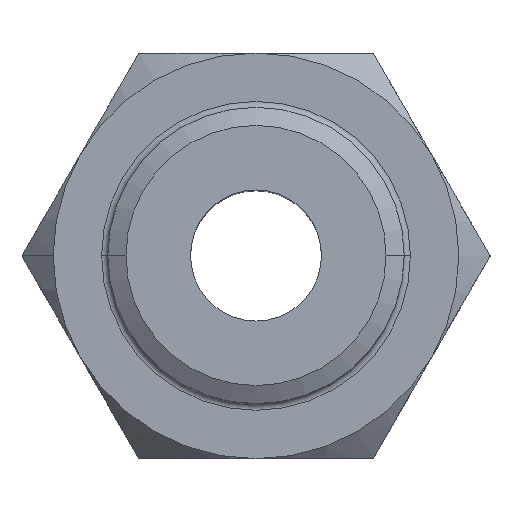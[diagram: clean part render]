
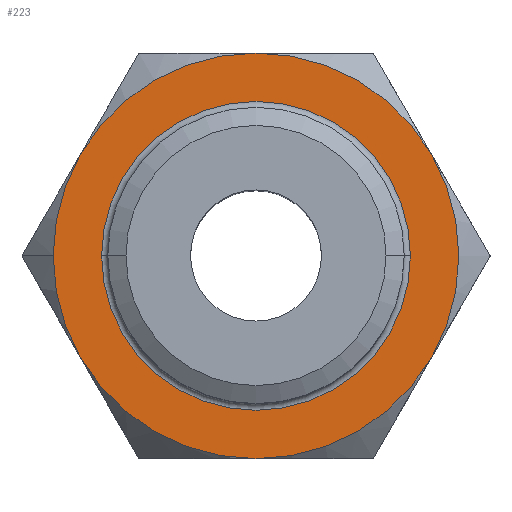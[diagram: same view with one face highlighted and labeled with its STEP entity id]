
A CAD part, top view. The second image highlights one B-rep face of the part: STEP entity #223.
In plain terms, the highlighted planar face has unit normal (0, 0, 1).
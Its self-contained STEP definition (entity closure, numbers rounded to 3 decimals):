
#54 = FACE_OUTER_BOUND ( 'NONE', #1318, .T. ) ;
#156 = DIRECTION ( 'NONE',  ( 1., 0., 0. ) ) ;
#199 = DIRECTION ( 'NONE',  ( 0., 0., 1. ) ) ;
#209 = VERTEX_POINT ( 'NONE', #3034 ) ;
#213 = ORIENTED_EDGE ( 'NONE', *, *, #1969, .T. ) ;
#223 = ADVANCED_FACE ( 'NONE', ( #54, #1937 ), #1802, .T. ) ;
#235 = CARTESIAN_POINT ( 'NONE',  ( 0., 0., -7. ) ) ;
#313 = DIRECTION ( 'NONE',  ( 0., 0., -1. ) ) ;
#327 = DIRECTION ( 'NONE',  ( 1., 0., 0. ) ) ;
#337 = CARTESIAN_POINT ( 'NONE',  ( 4.95, 0., -7. ) ) ;
#341 = EDGE_CURVE ( 'NONE', #2943, #1278, #2870, .T. ) ;
#344 = CARTESIAN_POINT ( 'NONE',  ( 0., 0., -7. ) ) ;
#372 = CIRCLE ( 'NONE', #3094, 6.5 ) ;
#446 = CIRCLE ( 'NONE', #1764, 6.5 ) ;
#453 = DIRECTION ( 'NONE',  ( 0., 0., 1. ) ) ;
#480 = AXIS2_PLACEMENT_3D ( 'NONE', #2433, #1399, #2927 ) ;
#548 = AXIS2_PLACEMENT_3D ( 'NONE', #235, #199, #156 ) ;
#553 = CIRCLE ( 'NONE', #2069, 6.5 ) ;
#568 = VERTEX_POINT ( 'NONE', #2491 ) ;
#668 = VERTEX_POINT ( 'NONE', #1525 ) ;
#678 = AXIS2_PLACEMENT_3D ( 'NONE', #2555, #2436, #2389 ) ;
#697 = VERTEX_POINT ( 'NONE', #1200 ) ;
#725 = EDGE_CURVE ( 'NONE', #1215, #1945, #965, .T. ) ;
#735 = VERTEX_POINT ( 'NONE', #2070 ) ;
#759 = ORIENTED_EDGE ( 'NONE', *, *, #2622, .T. ) ;
#843 = ORIENTED_EDGE ( 'NONE', *, *, #1019, .T. ) ;
#849 = DIRECTION ( 'NONE',  ( 0., 0., -1. ) ) ;
#878 = DIRECTION ( 'NONE',  ( 1., 0., 0. ) ) ;
#910 = CARTESIAN_POINT ( 'NONE',  ( 0., 0., -7. ) ) ;
#953 = EDGE_CURVE ( 'NONE', #1945, #697, #446, .T. ) ;
#965 = CIRCLE ( 'NONE', #678, 6.5 ) ;
#1019 = EDGE_CURVE ( 'NONE', #209, #668, #372, .T. ) ;
#1074 = EDGE_CURVE ( 'NONE', #735, #568, #1092, .T. ) ;
#1092 = CIRCLE ( 'NONE', #548, 6.5 ) ;
#1105 = AXIS2_PLACEMENT_3D ( 'NONE', #1791, #1998, #2583 ) ;
#1165 = DIRECTION ( 'NONE',  ( 1., 0., 0. ) ) ;
#1181 = DIRECTION ( 'NONE',  ( 0., 0., 1. ) ) ;
#1200 = CARTESIAN_POINT ( 'NONE',  ( -5.629, 3.25, -7. ) ) ;
#1214 = CARTESIAN_POINT ( 'NONE',  ( 0., 0., -7. ) ) ;
#1215 = VERTEX_POINT ( 'NONE', #1321 ) ;
#1244 = CIRCLE ( 'NONE', #1509, 6.5 ) ;
#1278 = VERTEX_POINT ( 'NONE', #2427 ) ;
#1318 = EDGE_LOOP ( 'NONE', ( #2006, #2676, #759, #2745, #213, #843, #2163 ) ) ;
#1321 = CARTESIAN_POINT ( 'NONE',  ( 5.629, 3.25, -7. ) ) ;
#1341 = CARTESIAN_POINT ( 'NONE',  ( 0., 0., -7. ) ) ;
#1399 = DIRECTION ( 'NONE',  ( 0., 0., 1. ) ) ;
#1414 = DIRECTION ( 'NONE',  ( 0., 0., 1. ) ) ;
#1477 = EDGE_CURVE ( 'NONE', #668, #1215, #553, .T. ) ;
#1483 = DIRECTION ( 'NONE',  ( 1., 0., 0. ) ) ;
#1509 = AXIS2_PLACEMENT_3D ( 'NONE', #1922, #453, #2178 ) ;
#1525 = CARTESIAN_POINT ( 'NONE',  ( 5.629, -3.25, -7. ) ) ;
#1576 = ORIENTED_EDGE ( 'NONE', *, *, #341, .T. ) ;
#1731 = EDGE_LOOP ( 'NONE', ( #1576, #2237 ) ) ;
#1764 = AXIS2_PLACEMENT_3D ( 'NONE', #1341, #1414, #1483 ) ;
#1791 = CARTESIAN_POINT ( 'NONE',  ( 7.5, 0., -7. ) ) ;
#1802 = PLANE ( 'NONE',  #1105 ) ;
#1838 = EDGE_CURVE ( 'NONE', #1278, #2943, #2924, .T. ) ;
#1922 = CARTESIAN_POINT ( 'NONE',  ( 0., 0., -7. ) ) ;
#1937 = FACE_BOUND ( 'NONE', #1731, .T. ) ;
#1945 = VERTEX_POINT ( 'NONE', #3075 ) ;
#1969 = EDGE_CURVE ( 'NONE', #568, #209, #3184, .T. ) ;
#1998 = DIRECTION ( 'NONE',  ( 0., 0., 1. ) ) ;
#2006 = ORIENTED_EDGE ( 'NONE', *, *, #725, .T. ) ;
#2069 = AXIS2_PLACEMENT_3D ( 'NONE', #2800, #2103, #2820 ) ;
#2070 = CARTESIAN_POINT ( 'NONE',  ( -6.5, 0., -7. ) ) ;
#2102 = AXIS2_PLACEMENT_3D ( 'NONE', #344, #313, #327 ) ;
#2103 = DIRECTION ( 'NONE',  ( 0., 0., 1. ) ) ;
#2163 = ORIENTED_EDGE ( 'NONE', *, *, #1477, .T. ) ;
#2178 = DIRECTION ( 'NONE',  ( 1., 0., 0. ) ) ;
#2237 = ORIENTED_EDGE ( 'NONE', *, *, #1838, .T. ) ;
#2389 = DIRECTION ( 'NONE',  ( 1., 0., 0. ) ) ;
#2427 = CARTESIAN_POINT ( 'NONE',  ( -4.95, 0., -7. ) ) ;
#2433 = CARTESIAN_POINT ( 'NONE',  ( 0., 0., -7. ) ) ;
#2436 = DIRECTION ( 'NONE',  ( 0., 0., 1. ) ) ;
#2491 = CARTESIAN_POINT ( 'NONE',  ( -5.629, -3.25, -7. ) ) ;
#2555 = CARTESIAN_POINT ( 'NONE',  ( 0., 0., -7. ) ) ;
#2583 = DIRECTION ( 'NONE',  ( 1., 0., 0. ) ) ;
#2622 = EDGE_CURVE ( 'NONE', #697, #735, #1244, .T. ) ;
#2676 = ORIENTED_EDGE ( 'NONE', *, *, #953, .T. ) ;
#2745 = ORIENTED_EDGE ( 'NONE', *, *, #1074, .T. ) ;
#2800 = CARTESIAN_POINT ( 'NONE',  ( 0., 0., -7. ) ) ;
#2820 = DIRECTION ( 'NONE',  ( 1., 0., 0. ) ) ;
#2870 = CIRCLE ( 'NONE', #2102, 4.95 ) ;
#2924 = CIRCLE ( 'NONE', #3173, 4.95 ) ;
#2927 = DIRECTION ( 'NONE',  ( 1., 0., 0. ) ) ;
#2943 = VERTEX_POINT ( 'NONE', #337 ) ;
#3034 = CARTESIAN_POINT ( 'NONE',  ( 0., -6.5, -7. ) ) ;
#3075 = CARTESIAN_POINT ( 'NONE',  ( 0., 6.5, -7. ) ) ;
#3094 = AXIS2_PLACEMENT_3D ( 'NONE', #1214, #1181, #1165 ) ;
#3173 = AXIS2_PLACEMENT_3D ( 'NONE', #910, #849, #878 ) ;
#3184 = CIRCLE ( 'NONE', #480, 6.5 ) ;
